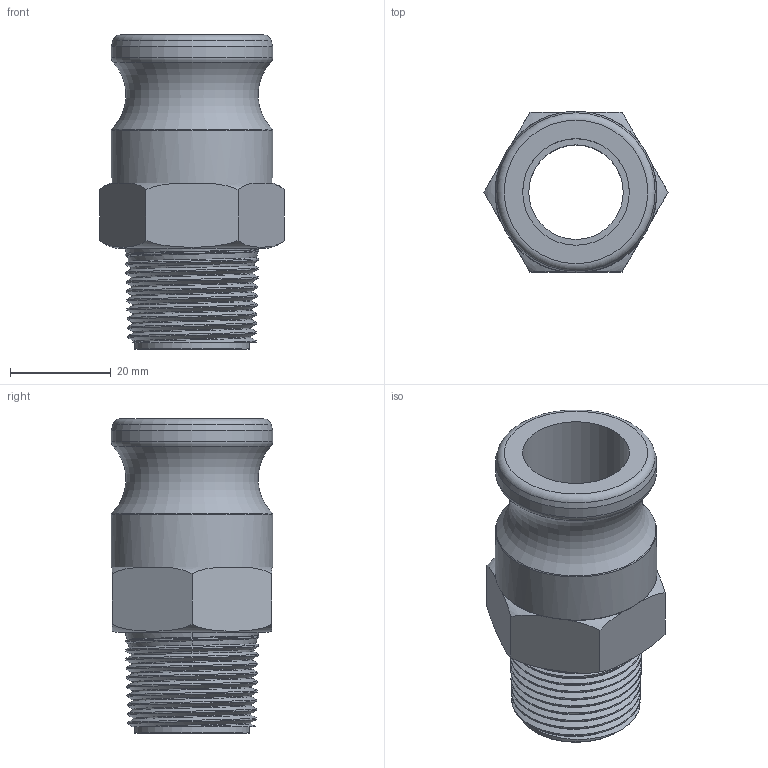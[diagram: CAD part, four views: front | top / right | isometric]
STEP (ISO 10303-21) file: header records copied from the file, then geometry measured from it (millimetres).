
FILE_DESCRIPTION(/* description */ ('Alibre Inc.'),/* implementation_level */ '2;1');
FILE_NAME(/* name */ 'export0',/* time_stamp */ '2016-01-17T17:04:27-05:00',/* author */ (''),/* organization */ (''),/* preprocessor_version */ 'ST-DEVELOPER v14',/* originating_system */ 'Alibre',/* authorisation */ '');
FILE_SCHEMA (('CONFIG_CONTROL_DESIGN'));
Length unit declared in the file: centimetre
Products named in the file (1): ID_1
Bounding box: 36.66 x 32.11 x 62.48 mm (x, y, z)
Volume: 23066.7 mm3; surface area: 11662.6 mm2
Topology: 1 solids, 1 shells, 83 faces, 215 edges, 137 vertices
Faces by surface type: cone 35, plane 23, cylinder 12, torus 10, bspline 3
Full cylindrical faces by diameter (mm): 18.796 x1, 21.209 x1, 22.86 x1, 30.323 x1, 32.106 x2
Entity records: 24444 total; most frequent: CARTESIAN_POINT 22721, ORIENTED_EDGE 398, DIRECTION 226, EDGE_CURVE 199, VERTEX_POINT 133, EDGE_LOOP 100, FACE_BOUND 100, AXIS2_PLACEMENT_3D 92
